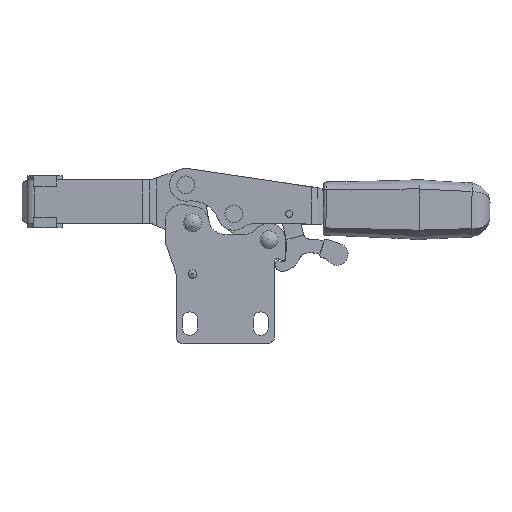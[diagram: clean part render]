
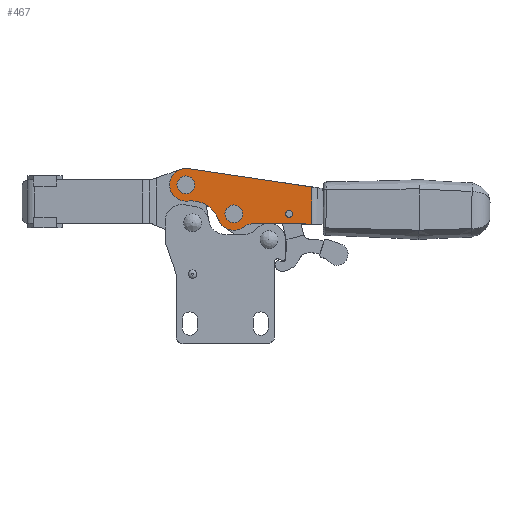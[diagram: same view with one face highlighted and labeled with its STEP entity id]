
A CAD part, top view. The second image highlights one B-rep face of the part: STEP entity #467.
In plain terms, the highlighted planar face has unit normal (0, 0, 1).
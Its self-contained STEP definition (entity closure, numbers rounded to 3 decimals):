
#467 = ADVANCED_FACE( '', ( #891, #892, #893, #894 ), #895, .T. );
#891 = FACE_OUTER_BOUND( '', #1580, .T. );
#892 = FACE_BOUND( '', #1581, .T. );
#893 = FACE_BOUND( '', #1582, .T. );
#894 = FACE_BOUND( '', #1583, .T. );
#895 = PLANE( '', #1584 );
#1580 = EDGE_LOOP( '', ( #2959, #2960, #2961, #2962, #2963, #2964, #2965 ) );
#1581 = EDGE_LOOP( '', ( #2966 ) );
#1582 = EDGE_LOOP( '', ( #2967 ) );
#1583 = EDGE_LOOP( '', ( #2968 ) );
#1584 = AXIS2_PLACEMENT_3D( '', #2969, #2970, #2971 );
#2959 = ORIENTED_EDGE( '', *, *, #4088, .F. );
#2960 = ORIENTED_EDGE( '', *, *, #4144, .T. );
#2961 = ORIENTED_EDGE( '', *, *, #4145, .T. );
#2962 = ORIENTED_EDGE( '', *, *, #4146, .F. );
#2963 = ORIENTED_EDGE( '', *, *, #4147, .T. );
#2964 = ORIENTED_EDGE( '', *, *, #4148, .F. );
#2965 = ORIENTED_EDGE( '', *, *, #4149, .T. );
#2966 = ORIENTED_EDGE( '', *, *, #4150, .F. );
#2967 = ORIENTED_EDGE( '', *, *, #4151, .F. );
#2968 = ORIENTED_EDGE( '', *, *, #4152, .F. );
#2969 = CARTESIAN_POINT( '', ( -2.455, 13.925, 5. ) );
#2970 = DIRECTION( '', ( 0., 0., 1. ) );
#2971 = DIRECTION( '', ( 1., 0., 0. ) );
#4088 = EDGE_CURVE( '', #4921, #4922, #4923, .F. );
#4144 = EDGE_CURVE( '', #4921, #5016, #5017, .T. );
#4145 = EDGE_CURVE( '', #5016, #5018, #5019, .T. );
#4146 = EDGE_CURVE( '', #5020, #5018, #5021, .T. );
#4147 = EDGE_CURVE( '', #5020, #5022, #5023, .T. );
#4148 = EDGE_CURVE( '', #5024, #5022, #5025, .T. );
#4149 = EDGE_CURVE( '', #5024, #4922, #5026, .T. );
#4150 = EDGE_CURVE( '', #5027, #5027, #5028, .T. );
#4151 = EDGE_CURVE( '', #5029, #5029, #5030, .T. );
#4152 = EDGE_CURVE( '', #5031, #5031, #5032, .T. );
#4921 = VERTEX_POINT( '', #6190 );
#4922 = VERTEX_POINT( '', #6191 );
#4923 = LINE( '', #6192, #6193 );
#5016 = VERTEX_POINT( '', #6338 );
#5017 = LINE( '', #6339, #6340 );
#5018 = VERTEX_POINT( '', #6341 );
#5019 = CIRCLE( '', #6342, 6. );
#5020 = VERTEX_POINT( '', #6343 );
#5021 = CIRCLE( '', #6344, 10.67 );
#5022 = VERTEX_POINT( '', #6345 );
#5023 = CIRCLE( '', #6346, 6. );
#5024 = VERTEX_POINT( '', #6347 );
#5025 = CIRCLE( '', #6348, 7. );
#5026 = LINE( '', #6349, #6350 );
#5027 = VERTEX_POINT( '', #6351 );
#5028 = CIRCLE( '', #6352, 3.25 );
#5029 = VERTEX_POINT( '', #6353 );
#5030 = CIRCLE( '', #6354, 3.25 );
#5031 = VERTEX_POINT( '', #6355 );
#5032 = CIRCLE( '', #6356, 1.25 );
#6190 = CARTESIAN_POINT( '', ( 43.771, 13.12, 5. ) );
#6191 = CARTESIAN_POINT( '', ( 43.637, -0.472, 5. ) );
#6192 = CARTESIAN_POINT( '', ( 43.389, -25.471, 5. ) );
#6193 = VECTOR( '', #7526, 1000. );
#6338 = CARTESIAN_POINT( '', ( -1.573, 19.86, 5. ) );
#6339 = CARTESIAN_POINT( '', ( 48.045, 12.485, 5. ) );
#6340 = VECTOR( '', #7632, 1000. );
#6341 = CARTESIAN_POINT( '', ( -1.744, 7.968, 5. ) );
#6342 = AXIS2_PLACEMENT_3D( '', #7633, #7634, #7635 );
#6343 = CARTESIAN_POINT( '', ( 9.5, 1.154, 5. ) );
#6344 = AXIS2_PLACEMENT_3D( '', #7636, #7637, #7638 );
#6345 = CARTESIAN_POINT( '', ( 18.62, -1.587, 5. ) );
#6346 = AXIS2_PLACEMENT_3D( '', #7639, #7640, #7641 );
#6347 = CARTESIAN_POINT( '', ( 22.783, -0.265, 5. ) );
#6348 = AXIS2_PLACEMENT_3D( '', #7642, #7643, #7644 );
#6349 = CARTESIAN_POINT( '', ( 22.783, -0.265, 5. ) );
#6350 = VECTOR( '', #7645, 1000. );
#6351 = CARTESIAN_POINT( '', ( 0.795, 13.925, 5. ) );
#6352 = AXIS2_PLACEMENT_3D( '', #7646, #7647, #7648 );
#6353 = CARTESIAN_POINT( '', ( 18.361, 3.28, 5. ) );
#6354 = AXIS2_PLACEMENT_3D( '', #7649, #7650, #7651 );
#6355 = CARTESIAN_POINT( '', ( 36.636, 3.27, 5. ) );
#6356 = AXIS2_PLACEMENT_3D( '', #7652, #7653, #7654 );
#7526 = DIRECTION( '', ( 0.01, 1., 0. ) );
#7632 = DIRECTION( '', ( -0.989, 0.147, 0. ) );
#7633 = CARTESIAN_POINT( '', ( -2.455, 13.925, 5. ) );
#7634 = DIRECTION( '', ( 0., 0., 1. ) );
#7635 = DIRECTION( '', ( 1., 0., 0. ) );
#7636 = CARTESIAN_POINT( '', ( -0.478, -2.627, 5. ) );
#7637 = DIRECTION( '', ( 0., 0., 1. ) );
#7638 = DIRECTION( '', ( 1., 0., 0. ) );
#7639 = CARTESIAN_POINT( '', ( 15.111, 3.28, 5. ) );
#7640 = DIRECTION( '', ( 0., 0., 1. ) );
#7641 = DIRECTION( '', ( 1., 0., 0. ) );
#7642 = CARTESIAN_POINT( '', ( 22.714, -7.265, 5. ) );
#7643 = DIRECTION( '', ( 0., 0., 1. ) );
#7644 = DIRECTION( '', ( 1., 0., 0. ) );
#7645 = DIRECTION( '', ( 1., -0.01, 0. ) );
#7646 = CARTESIAN_POINT( '', ( -2.455, 13.925, 5. ) );
#7647 = DIRECTION( '', ( 0., 0., 1. ) );
#7648 = DIRECTION( '', ( 1., 0., 0. ) );
#7649 = CARTESIAN_POINT( '', ( 15.111, 3.28, 5. ) );
#7650 = DIRECTION( '', ( 0., 0., 1. ) );
#7651 = DIRECTION( '', ( 1., 0., 0. ) );
#7652 = CARTESIAN_POINT( '', ( 35.386, 3.27, 5. ) );
#7653 = DIRECTION( '', ( 0., 0., 1. ) );
#7654 = DIRECTION( '', ( 1., 0., 0. ) );
